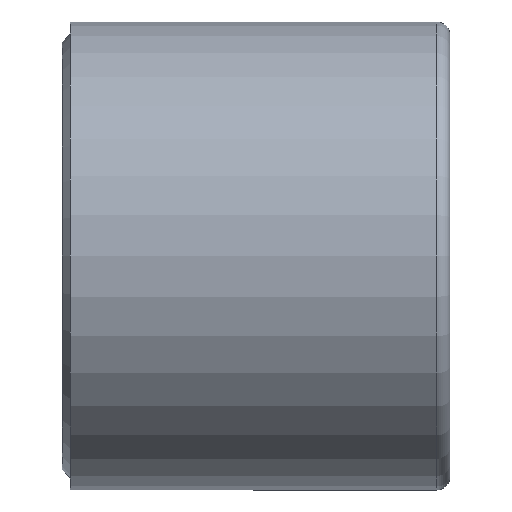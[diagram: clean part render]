
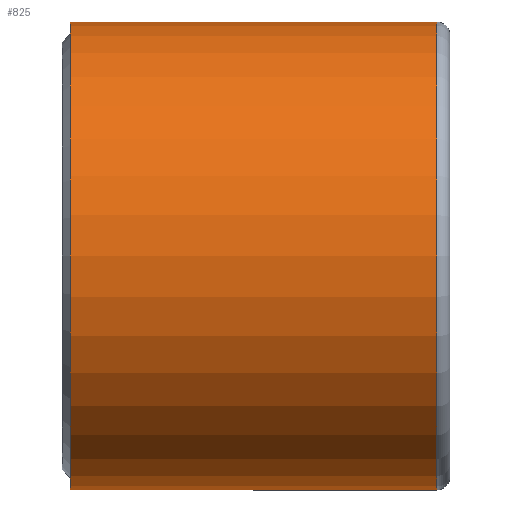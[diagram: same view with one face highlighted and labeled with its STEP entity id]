
A CAD part, front view. The second image highlights one B-rep face of the part: STEP entity #825.
In plain terms, the highlighted cylindrical face has radius 33.731 mm (diameter 67.462 mm), a partial arc.
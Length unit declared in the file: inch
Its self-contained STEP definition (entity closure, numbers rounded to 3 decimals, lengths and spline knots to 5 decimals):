
#30 = VERTEX_POINT ( 'NONE', #735 ) ;
#47 = VERTEX_POINT ( 'NONE', #605 ) ;
#49 = DIRECTION ( 'NONE',  ( 0., 0., 1. ) ) ;
#56 = EDGE_CURVE ( 'NONE', #277, #30, #914, .T. ) ;
#69 = EDGE_CURVE ( 'NONE', #30, #100, #801, .T. ) ;
#71 = DIRECTION ( 'NONE',  ( -1., 0., 0. ) ) ;
#83 = CARTESIAN_POINT ( 'NONE',  ( 2.12674, 0., 0. ) ) ;
#100 = VERTEX_POINT ( 'NONE', #423 ) ;
#153 = CARTESIAN_POINT ( 'NONE',  ( 0., 0., 1.328 ) ) ;
#157 = CARTESIAN_POINT ( 'NONE',  ( 0., 0., -1.328 ) ) ;
#198 = CYLINDRICAL_SURFACE ( 'NONE', #846, 1.328 ) ;
#232 = LINE ( 'NONE', #153, #936 ) ;
#242 = CIRCLE ( 'NONE', #799, 1.328 ) ;
#270 = ORIENTED_EDGE ( 'NONE', *, *, #343, .T. ) ;
#271 = ORIENTED_EDGE ( 'NONE', *, *, #380, .T. ) ;
#277 = VERTEX_POINT ( 'NONE', #461 ) ;
#302 = DIRECTION ( 'NONE',  ( -1., 0., 0. ) ) ;
#343 = EDGE_CURVE ( 'NONE', #277, #47, #242, .T. ) ;
#365 = CARTESIAN_POINT ( 'NONE',  ( 0.04674, 0., 0. ) ) ;
#380 = EDGE_CURVE ( 'NONE', #47, #100, #232, .T. ) ;
#397 = VECTOR ( 'NONE', #71, 39.37008 ) ;
#423 = CARTESIAN_POINT ( 'NONE',  ( 0.04674, 0., 1.328 ) ) ;
#424 = FACE_OUTER_BOUND ( 'NONE', #709, .T. ) ;
#461 = CARTESIAN_POINT ( 'NONE',  ( 2.12674, 0., -1.328 ) ) ;
#605 = CARTESIAN_POINT ( 'NONE',  ( 2.12674, 0., 1.328 ) ) ;
#656 = DIRECTION ( 'NONE',  ( 0., 0., 1. ) ) ;
#708 = DIRECTION ( 'NONE',  ( -1., 0., 0. ) ) ;
#709 = EDGE_LOOP ( 'NONE', ( #916, #270, #271, #904 ) ) ;
#735 = CARTESIAN_POINT ( 'NONE',  ( 0.04674, 0., -1.328 ) ) ;
#778 = CARTESIAN_POINT ( 'NONE',  ( 0., 0., 0. ) ) ;
#799 = AXIS2_PLACEMENT_3D ( 'NONE', #83, #901, #905 ) ;
#801 = CIRCLE ( 'NONE', #938, 1.328 ) ;
#825 = ADVANCED_FACE ( 'NONE', ( #424 ), #198, .T. ) ;
#846 = AXIS2_PLACEMENT_3D ( 'NONE', #778, #708, #49 ) ;
#897 = DIRECTION ( 'NONE',  ( -1., 0., 0. ) ) ;
#901 = DIRECTION ( 'NONE',  ( -1., 0., 0. ) ) ;
#904 = ORIENTED_EDGE ( 'NONE', *, *, #69, .F. ) ;
#905 = DIRECTION ( 'NONE',  ( 0., 0., 1. ) ) ;
#914 = LINE ( 'NONE', #157, #397 ) ;
#916 = ORIENTED_EDGE ( 'NONE', *, *, #56, .F. ) ;
#936 = VECTOR ( 'NONE', #897, 39.37008 ) ;
#938 = AXIS2_PLACEMENT_3D ( 'NONE', #365, #302, #656 ) ;
